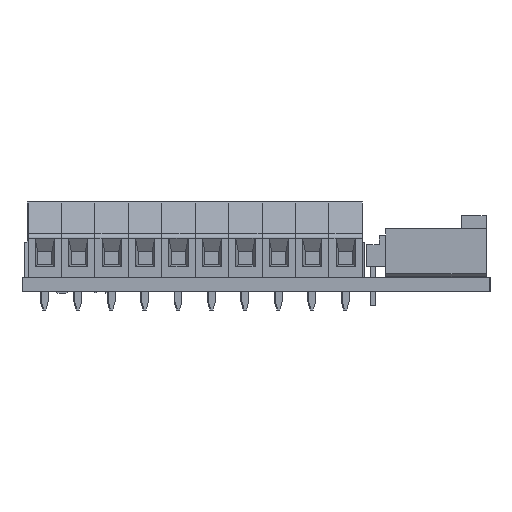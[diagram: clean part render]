
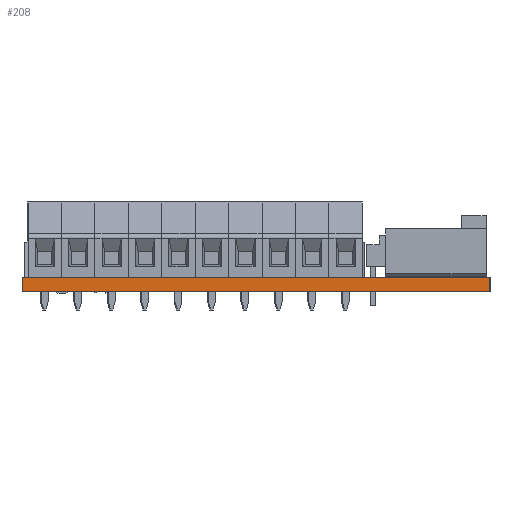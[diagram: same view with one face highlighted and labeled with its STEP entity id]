
A CAD part, left-side view. The second image highlights one B-rep face of the part: STEP entity #208.
In plain terms, the highlighted planar face has unit normal (-1, 0, 0).
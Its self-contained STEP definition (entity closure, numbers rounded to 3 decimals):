
#208 = ADVANCED_FACE('',(#209),#223,.T.);
#209 = FACE_BOUND('',#210,.T.);
#210 = EDGE_LOOP('',(#211,#246,#274,#302));
#211 = ORIENTED_EDGE('',*,*,#212,.T.);
#212 = EDGE_CURVE('',#213,#215,#217,.T.);
#213 = VERTEX_POINT('',#214);
#214 = CARTESIAN_POINT('',(0.,0.,0.));
#215 = VERTEX_POINT('',#216);
#216 = CARTESIAN_POINT('',(0.,0.,1.6));
#217 = SURFACE_CURVE('',#218,(#222,#234),.PCURVE_S1.);
#218 = LINE('',#219,#220);
#219 = CARTESIAN_POINT('',(0.,0.,0.));
#220 = VECTOR('',#221,1.);
#221 = DIRECTION('',(0.,0.,1.));
#222 = PCURVE('',#223,#228);
#223 = PLANE('',#224);
#224 = AXIS2_PLACEMENT_3D('',#225,#226,#227);
#225 = CARTESIAN_POINT('',(0.,0.,0.));
#226 = DIRECTION('',(-1.,0.,0.));
#227 = DIRECTION('',(0.,1.,0.));
#228 = DEFINITIONAL_REPRESENTATION('',(#229),#233);
#229 = LINE('',#230,#231);
#230 = CARTESIAN_POINT('',(0.,0.));
#231 = VECTOR('',#232,1.);
#232 = DIRECTION('',(0.,-1.));
#233 = ( GEOMETRIC_REPRESENTATION_CONTEXT(2) 
PARAMETRIC_REPRESENTATION_CONTEXT() REPRESENTATION_CONTEXT('2D SPACE',''
  ) );
#234 = PCURVE('',#235,#240);
#235 = PLANE('',#236);
#236 = AXIS2_PLACEMENT_3D('',#237,#238,#239);
#237 = CARTESIAN_POINT('',(83.058,0.,0.));
#238 = DIRECTION('',(0.,-1.,0.));
#239 = DIRECTION('',(-1.,0.,0.));
#240 = DEFINITIONAL_REPRESENTATION('',(#241),#245);
#241 = LINE('',#242,#243);
#242 = CARTESIAN_POINT('',(83.058,0.));
#243 = VECTOR('',#244,1.);
#244 = DIRECTION('',(0.,-1.));
#245 = ( GEOMETRIC_REPRESENTATION_CONTEXT(2) 
PARAMETRIC_REPRESENTATION_CONTEXT() REPRESENTATION_CONTEXT('2D SPACE',''
  ) );
#246 = ORIENTED_EDGE('',*,*,#247,.T.);
#247 = EDGE_CURVE('',#215,#248,#250,.T.);
#248 = VERTEX_POINT('',#249);
#249 = CARTESIAN_POINT('',(0.,53.34,1.6));
#250 = SURFACE_CURVE('',#251,(#255,#262),.PCURVE_S1.);
#251 = LINE('',#252,#253);
#252 = CARTESIAN_POINT('',(0.,0.,1.6));
#253 = VECTOR('',#254,1.);
#254 = DIRECTION('',(0.,1.,0.));
#255 = PCURVE('',#223,#256);
#256 = DEFINITIONAL_REPRESENTATION('',(#257),#261);
#257 = LINE('',#258,#259);
#258 = CARTESIAN_POINT('',(0.,-1.6));
#259 = VECTOR('',#260,1.);
#260 = DIRECTION('',(1.,0.));
#261 = ( GEOMETRIC_REPRESENTATION_CONTEXT(2) 
PARAMETRIC_REPRESENTATION_CONTEXT() REPRESENTATION_CONTEXT('2D SPACE',''
  ) );
#262 = PCURVE('',#263,#268);
#263 = PLANE('',#264);
#264 = AXIS2_PLACEMENT_3D('',#265,#266,#267);
#265 = CARTESIAN_POINT('',(0.,0.,1.6));
#266 = DIRECTION('',(0.,0.,1.));
#267 = DIRECTION('',(1.,0.,0.));
#268 = DEFINITIONAL_REPRESENTATION('',(#269),#273);
#269 = LINE('',#270,#271);
#270 = CARTESIAN_POINT('',(0.,0.));
#271 = VECTOR('',#272,1.);
#272 = DIRECTION('',(0.,1.));
#273 = ( GEOMETRIC_REPRESENTATION_CONTEXT(2) 
PARAMETRIC_REPRESENTATION_CONTEXT() REPRESENTATION_CONTEXT('2D SPACE',''
  ) );
#274 = ORIENTED_EDGE('',*,*,#275,.F.);
#275 = EDGE_CURVE('',#276,#248,#278,.T.);
#276 = VERTEX_POINT('',#277);
#277 = CARTESIAN_POINT('',(0.,53.34,0.));
#278 = SURFACE_CURVE('',#279,(#283,#290),.PCURVE_S1.);
#279 = LINE('',#280,#281);
#280 = CARTESIAN_POINT('',(0.,53.34,0.));
#281 = VECTOR('',#282,1.);
#282 = DIRECTION('',(0.,0.,1.));
#283 = PCURVE('',#223,#284);
#284 = DEFINITIONAL_REPRESENTATION('',(#285),#289);
#285 = LINE('',#286,#287);
#286 = CARTESIAN_POINT('',(53.34,0.));
#287 = VECTOR('',#288,1.);
#288 = DIRECTION('',(0.,-1.));
#289 = ( GEOMETRIC_REPRESENTATION_CONTEXT(2) 
PARAMETRIC_REPRESENTATION_CONTEXT() REPRESENTATION_CONTEXT('2D SPACE',''
  ) );
#290 = PCURVE('',#291,#296);
#291 = PLANE('',#292);
#292 = AXIS2_PLACEMENT_3D('',#293,#294,#295);
#293 = CARTESIAN_POINT('',(0.,53.34,0.));
#294 = DIRECTION('',(0.,1.,0.));
#295 = DIRECTION('',(1.,0.,0.));
#296 = DEFINITIONAL_REPRESENTATION('',(#297),#301);
#297 = LINE('',#298,#299);
#298 = CARTESIAN_POINT('',(0.,0.));
#299 = VECTOR('',#300,1.);
#300 = DIRECTION('',(0.,-1.));
#301 = ( GEOMETRIC_REPRESENTATION_CONTEXT(2) 
PARAMETRIC_REPRESENTATION_CONTEXT() REPRESENTATION_CONTEXT('2D SPACE',''
  ) );
#302 = ORIENTED_EDGE('',*,*,#303,.F.);
#303 = EDGE_CURVE('',#213,#276,#304,.T.);
#304 = SURFACE_CURVE('',#305,(#309,#316),.PCURVE_S1.);
#305 = LINE('',#306,#307);
#306 = CARTESIAN_POINT('',(0.,0.,0.));
#307 = VECTOR('',#308,1.);
#308 = DIRECTION('',(0.,1.,0.));
#309 = PCURVE('',#223,#310);
#310 = DEFINITIONAL_REPRESENTATION('',(#311),#315);
#311 = LINE('',#312,#313);
#312 = CARTESIAN_POINT('',(0.,0.));
#313 = VECTOR('',#314,1.);
#314 = DIRECTION('',(1.,0.));
#315 = ( GEOMETRIC_REPRESENTATION_CONTEXT(2) 
PARAMETRIC_REPRESENTATION_CONTEXT() REPRESENTATION_CONTEXT('2D SPACE',''
  ) );
#316 = PCURVE('',#317,#322);
#317 = PLANE('',#318);
#318 = AXIS2_PLACEMENT_3D('',#319,#320,#321);
#319 = CARTESIAN_POINT('',(0.,0.,0.));
#320 = DIRECTION('',(0.,0.,1.));
#321 = DIRECTION('',(1.,0.,0.));
#322 = DEFINITIONAL_REPRESENTATION('',(#323),#327);
#323 = LINE('',#324,#325);
#324 = CARTESIAN_POINT('',(0.,0.));
#325 = VECTOR('',#326,1.);
#326 = DIRECTION('',(0.,1.));
#327 = ( GEOMETRIC_REPRESENTATION_CONTEXT(2) 
PARAMETRIC_REPRESENTATION_CONTEXT() REPRESENTATION_CONTEXT('2D SPACE',''
  ) );
